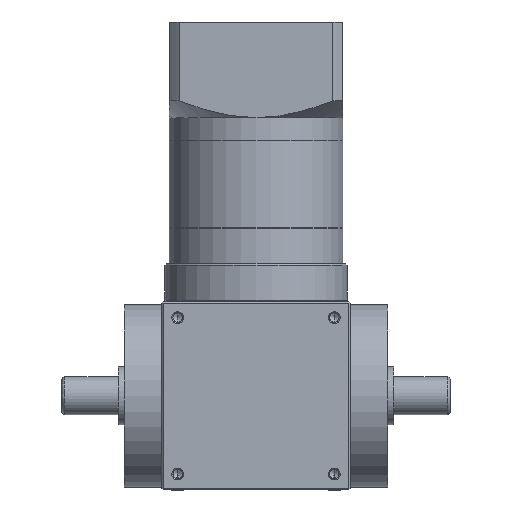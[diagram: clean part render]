
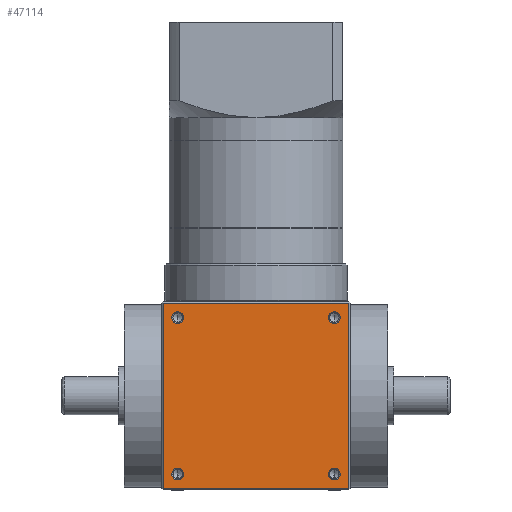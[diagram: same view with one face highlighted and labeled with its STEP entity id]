
A CAD part, front view. The second image highlights one B-rep face of the part: STEP entity #47114.
In plain terms, the highlighted planar face has unit normal (0, -1, 0).
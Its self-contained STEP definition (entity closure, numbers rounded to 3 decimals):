
#1379 = DIRECTION ( 'NONE',  ( 0., -1., 0. ) ) ;
#2887 = CARTESIAN_POINT ( 'NONE',  ( -32., -32.5, 65. ) ) ;
#3031 = EDGE_CURVE ( 'NONE', #17466, #23994, #56194, .T. ) ;
#3472 = ORIENTED_EDGE ( 'NONE', *, *, #32176, .F. ) ;
#4224 = CARTESIAN_POINT ( 'NONE',  ( -32.5, -32.5, 65. ) ) ;
#4467 = CARTESIAN_POINT ( 'NONE',  ( 27., -32.5, 59.5 ) ) ;
#4958 = ORIENTED_EDGE ( 'NONE', *, *, #49227, .F. ) ;
#4994 = ORIENTED_EDGE ( 'NONE', *, *, #47207, .F. ) ;
#6034 = CARTESIAN_POINT ( 'NONE',  ( -27., -32.5, 61.525 ) ) ;
#8480 = EDGE_LOOP ( 'NONE', ( #22421, #32550 ) ) ;
#8831 = DIRECTION ( 'NONE',  ( 0., 0., -1. ) ) ;
#8976 = CARTESIAN_POINT ( 'NONE',  ( -32.5, -32.5, 64.5 ) ) ;
#12108 = CARTESIAN_POINT ( 'NONE',  ( -32.5, -32.5, 0.5 ) ) ;
#12685 = EDGE_CURVE ( 'NONE', #15870, #50289, #25420, .T. ) ;
#13043 = DIRECTION ( 'NONE',  ( 0., 1., 0. ) ) ;
#13083 = CIRCLE ( 'NONE', #23693, 2.025 ) ;
#13582 = VECTOR ( 'NONE', #52718, 1000. ) ;
#14269 = LINE ( 'NONE', #2887, #24541 ) ;
#14507 = VECTOR ( 'NONE', #48395, 1000. ) ;
#14815 = VERTEX_POINT ( 'NONE', #24435 ) ;
#15025 = FACE_BOUND ( 'NONE', #8480, .T. ) ;
#15526 = EDGE_CURVE ( 'NONE', #30307, #14815, #35495, .T. ) ;
#15870 = VERTEX_POINT ( 'NONE', #29147 ) ;
#15899 = LINE ( 'NONE', #8976, #14507 ) ;
#16310 = CIRCLE ( 'NONE', #25859, 2.025 ) ;
#16529 = DIRECTION ( 'NONE',  ( -1., 0., 0. ) ) ;
#17362 = EDGE_CURVE ( 'NONE', #23994, #17466, #32468, .T. ) ;
#17466 = VERTEX_POINT ( 'NONE', #18246 ) ;
#18246 = CARTESIAN_POINT ( 'NONE',  ( 27., -32.5, 57.475 ) ) ;
#18417 = DIRECTION ( 'NONE',  ( 0., -1., 0. ) ) ;
#18653 = CIRCLE ( 'NONE', #38171, 2.025 ) ;
#19778 = CIRCLE ( 'NONE', #50921, 2.025 ) ;
#20298 = CARTESIAN_POINT ( 'NONE',  ( -27., -32.5, 57.475 ) ) ;
#20478 = FACE_BOUND ( 'NONE', #51385, .T. ) ;
#20913 = CARTESIAN_POINT ( 'NONE',  ( 27., -32.5, 5.5 ) ) ;
#21166 = ORIENTED_EDGE ( 'NONE', *, *, #28218, .F. ) ;
#21453 = CARTESIAN_POINT ( 'NONE',  ( 27., -32.5, 61.525 ) ) ;
#22021 = CARTESIAN_POINT ( 'NONE',  ( -27., -32.5, 59.5 ) ) ;
#22421 = ORIENTED_EDGE ( 'NONE', *, *, #3031, .F. ) ;
#22563 = CARTESIAN_POINT ( 'NONE',  ( 27., -32.5, 5.5 ) ) ;
#22695 = AXIS2_PLACEMENT_3D ( 'NONE', #25580, #55953, #29996 ) ;
#22864 = LINE ( 'NONE', #12108, #24254 ) ;
#23693 = AXIS2_PLACEMENT_3D ( 'NONE', #22021, #52511, #26513 ) ;
#23994 = VERTEX_POINT ( 'NONE', #21453 ) ;
#24053 = EDGE_CURVE ( 'NONE', #48010, #40661, #13083, .T. ) ;
#24254 = VECTOR ( 'NONE', #16529, 1000. ) ;
#24396 = EDGE_LOOP ( 'NONE', ( #3472, #44746, #56449, #32787 ) ) ;
#24435 = CARTESIAN_POINT ( 'NONE',  ( 32., -32.5, 0.5 ) ) ;
#24494 = CARTESIAN_POINT ( 'NONE',  ( -27., -32.5, 3.475 ) ) ;
#24541 = VECTOR ( 'NONE', #37926, 1000. ) ;
#25304 = FACE_OUTER_BOUND ( 'NONE', #24396, .T. ) ;
#25357 = DIRECTION ( 'NONE',  ( 0., 0., -1. ) ) ;
#25420 = CIRCLE ( 'NONE', #43124, 2.025 ) ;
#25580 = CARTESIAN_POINT ( 'NONE',  ( -27., -32.5, 5.5 ) ) ;
#25842 = CARTESIAN_POINT ( 'NONE',  ( -27., -32.5, 7.525 ) ) ;
#25859 = AXIS2_PLACEMENT_3D ( 'NONE', #44678, #18417, #48974 ) ;
#26513 = DIRECTION ( 'NONE',  ( 0., 0., -1. ) ) ;
#26670 = CARTESIAN_POINT ( 'NONE',  ( 32., -32.5, 64.5 ) ) ;
#26734 = CARTESIAN_POINT ( 'NONE',  ( 32., -32.5, 65. ) ) ;
#26816 = EDGE_LOOP ( 'NONE', ( #4958, #36769 ) ) ;
#27038 = DIRECTION ( 'NONE',  ( 0., 0., -1. ) ) ;
#27616 = CARTESIAN_POINT ( 'NONE',  ( -27., -32.5, 5.5 ) ) ;
#28218 = EDGE_CURVE ( 'NONE', #52311, #39380, #44970, .T. ) ;
#28488 = VERTEX_POINT ( 'NONE', #36463 ) ;
#29147 = CARTESIAN_POINT ( 'NONE',  ( 27., -32.5, 3.475 ) ) ;
#29996 = DIRECTION ( 'NONE',  ( 0., 0., -1. ) ) ;
#30307 = VERTEX_POINT ( 'NONE', #26670 ) ;
#30552 = AXIS2_PLACEMENT_3D ( 'NONE', #4224, #13043, #43698 ) ;
#30613 = CARTESIAN_POINT ( 'NONE',  ( -32., -32.5, 64.5 ) ) ;
#32011 = DIRECTION ( 'NONE',  ( 0., 0., -1. ) ) ;
#32176 = EDGE_CURVE ( 'NONE', #42152, #30307, #15899, .T. ) ;
#32468 = CIRCLE ( 'NONE', #36313, 2.025 ) ;
#32550 = ORIENTED_EDGE ( 'NONE', *, *, #17362, .F. ) ;
#32787 = ORIENTED_EDGE ( 'NONE', *, *, #15526, .F. ) ;
#35115 = DIRECTION ( 'NONE',  ( 0., -1., 0. ) ) ;
#35495 = LINE ( 'NONE', #26734, #13582 ) ;
#36313 = AXIS2_PLACEMENT_3D ( 'NONE', #4467, #35115, #8831 ) ;
#36463 = CARTESIAN_POINT ( 'NONE',  ( -32., -32.5, 0.5 ) ) ;
#36769 = ORIENTED_EDGE ( 'NONE', *, *, #24053, .F. ) ;
#36989 = FACE_BOUND ( 'NONE', #50197, .T. ) ;
#37926 = DIRECTION ( 'NONE',  ( 0., 0., 1. ) ) ;
#38171 = AXIS2_PLACEMENT_3D ( 'NONE', #27616, #1379, #32011 ) ;
#39240 = EDGE_CURVE ( 'NONE', #39380, #52311, #18653, .T. ) ;
#39313 = PLANE ( 'NONE',  #30552 ) ;
#39380 = VERTEX_POINT ( 'NONE', #24494 ) ;
#40140 = ORIENTED_EDGE ( 'NONE', *, *, #39240, .F. ) ;
#40373 = CARTESIAN_POINT ( 'NONE',  ( 27., -32.5, 7.525 ) ) ;
#40661 = VERTEX_POINT ( 'NONE', #20298 ) ;
#42152 = VERTEX_POINT ( 'NONE', #30613 ) ;
#42794 = ORIENTED_EDGE ( 'NONE', *, *, #12685, .F. ) ;
#43124 = AXIS2_PLACEMENT_3D ( 'NONE', #20913, #51415, #25357 ) ;
#43698 = DIRECTION ( 'NONE',  ( 0., 0., 1. ) ) ;
#44678 = CARTESIAN_POINT ( 'NONE',  ( -27., -32.5, 59.5 ) ) ;
#44746 = ORIENTED_EDGE ( 'NONE', *, *, #55564, .F. ) ;
#44970 = CIRCLE ( 'NONE', #22695, 2.025 ) ;
#47114 = ADVANCED_FACE ( 'NONE', ( #48527, #15025, #20478, #36989, #25304 ), #39313, .F. ) ;
#47207 = EDGE_CURVE ( 'NONE', #50289, #15870, #19778, .T. ) ;
#48010 = VERTEX_POINT ( 'NONE', #6034 ) ;
#48395 = DIRECTION ( 'NONE',  ( 1., 0., 0. ) ) ;
#48527 = FACE_BOUND ( 'NONE', #26816, .T. ) ;
#48974 = DIRECTION ( 'NONE',  ( 0., 0., -1. ) ) ;
#49227 = EDGE_CURVE ( 'NONE', #40661, #48010, #16310, .T. ) ;
#50197 = EDGE_LOOP ( 'NONE', ( #40140, #21166 ) ) ;
#50289 = VERTEX_POINT ( 'NONE', #40373 ) ;
#50921 = AXIS2_PLACEMENT_3D ( 'NONE', #22563, #53033, #27038 ) ;
#51385 = EDGE_LOOP ( 'NONE', ( #42794, #4994 ) ) ;
#51415 = DIRECTION ( 'NONE',  ( 0., -1., 0. ) ) ;
#51610 = EDGE_CURVE ( 'NONE', #14815, #28488, #22864, .T. ) ;
#52032 = AXIS2_PLACEMENT_3D ( 'NONE', #53742, #53672, #53602 ) ;
#52311 = VERTEX_POINT ( 'NONE', #25842 ) ;
#52511 = DIRECTION ( 'NONE',  ( 0., -1., 0. ) ) ;
#52718 = DIRECTION ( 'NONE',  ( 0., 0., -1. ) ) ;
#53033 = DIRECTION ( 'NONE',  ( 0., -1., 0. ) ) ;
#53602 = DIRECTION ( 'NONE',  ( 0., 0., -1. ) ) ;
#53672 = DIRECTION ( 'NONE',  ( 0., -1., 0. ) ) ;
#53742 = CARTESIAN_POINT ( 'NONE',  ( 27., -32.5, 59.5 ) ) ;
#55564 = EDGE_CURVE ( 'NONE', #28488, #42152, #14269, .T. ) ;
#55953 = DIRECTION ( 'NONE',  ( 0., -1., 0. ) ) ;
#56194 = CIRCLE ( 'NONE', #52032, 2.025 ) ;
#56449 = ORIENTED_EDGE ( 'NONE', *, *, #51610, .F. ) ;
